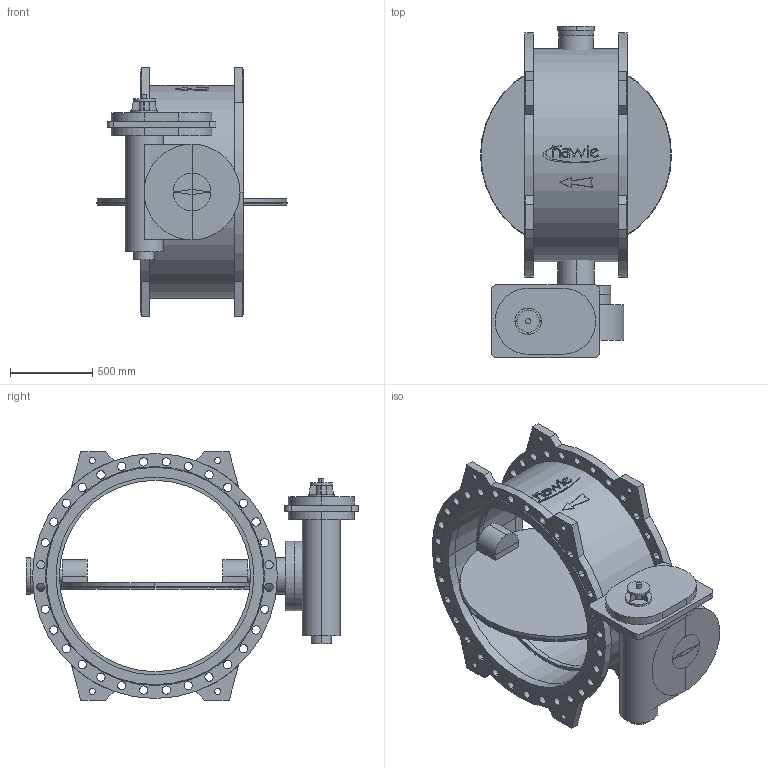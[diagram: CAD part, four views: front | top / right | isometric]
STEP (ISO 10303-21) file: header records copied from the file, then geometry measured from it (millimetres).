
FILE_DESCRIPTION(('STEP AP214'),'1');
FILE_NAME('S:/EK/USER/CAT6/3DHomepage_27-04-2012/neu_08-01-2013/9881K/9881K_PN16_DN1200.STP','2013-03-11T16:03:16',(' '),(' '),'Spatial InterOp 3D',' ',' ');
FILE_SCHEMA(('automotive_design'));
Length unit declared in the file: millimetre
Products named in the file (51): 3D-Objekt
Bounding box: 1158 x 2013 x 1506 mm (x, y, z)
Volume: 395813176.1 mm3; surface area: 17285384.9 mm2
Topology: 51 solids, 51 shells, 481 faces, 1128 edges, 752 vertices
Faces by surface type: cylinder 259, plane 216, cone 6
Entity records: 19327 total; most frequent: DIRECTION 2722, CARTESIAN_POINT 2412, ORIENTED_EDGE 2256, EDGE_CURVE 1128, AXIS2_PLACEMENT_3D 1062, VERTEX_POINT 752, EDGE_LOOP 640, LINE 598
